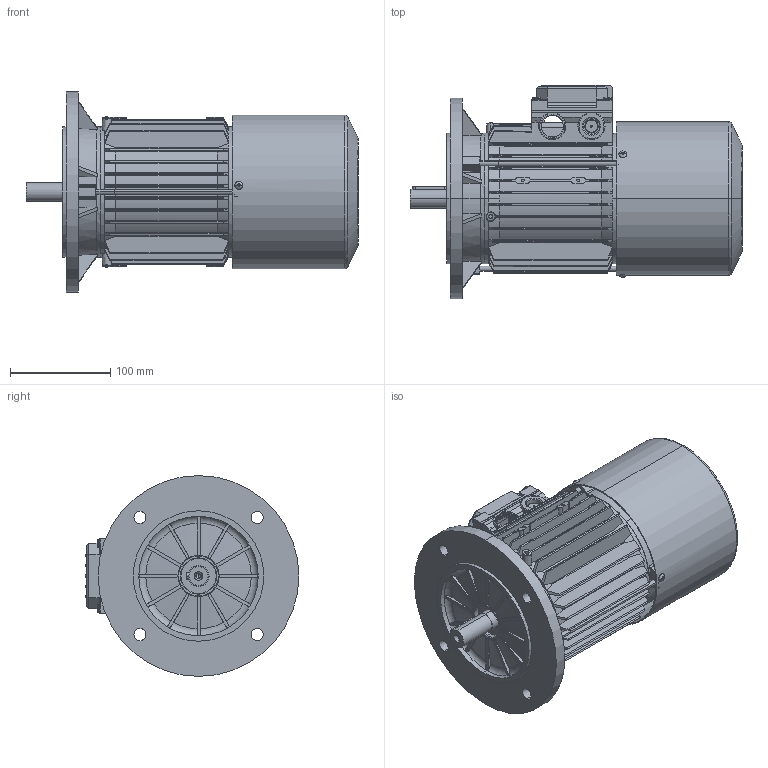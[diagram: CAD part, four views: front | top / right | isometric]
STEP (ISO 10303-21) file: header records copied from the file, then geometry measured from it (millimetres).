
FILE_DESCRIPTION (( 'STEP AP214' ), '1' );
FILE_NAME ('M14DB0011.STEP', '2019-01-31T14:18:26', ( '' ), ( '' ), 'SwSTEP 2.0', 'SolidWorks 2018', '' );
FILE_SCHEMA (( 'AUTOMOTIVE_DESIGN' ));
Length unit declared in the file: millimetre
Products named in the file (13): Coperchio per Scatola Singola 63-71-80 con viti; Guarnizione Scatola Singola 63-71-80; Vite per coperchio morsettiera; Coperchio per Scatola Singola 63-71-80 - DBAN0095; Vite testa rotonda M3; Scudo Lato Freno P1 BM 80 - DCAH0195; Cuffia BM 80 - DCAL0097; Tirante SM 80; Scudo a flangia B5 Fi 200 BA-BM 80; Chiavetta 80; Albero BM 80; Carcassa 80 B5; M14DB0011
Assembly tree (19 placements, depth 3):
  M14DB0011
    Carcassa 80 B5
    Albero BM 80
    Chiavetta 80
    Scudo a flangia B5 Fi 200 BA-BM 80
    Tirante SM 80  x3
    Cuffia BM 80 - DCAL0097
    Scudo Lato Freno P1 BM 80 - DCAH0195
    Vite testa rotonda M3  x3
    Coperchio per Scatola Singola 63-71-80 con viti
      Coperchio per Scatola Singola 63-71-80 - DBAN0095
      Vite per coperchio morsettiera  x4
      Guarnizione Scatola Singola 63-71-80
Bounding box: 330.75 x 213 x 200 mm (x, y, z)
Volume: 951898.3 mm3; surface area: 599492.7 mm2
Topology: 21 solids, 21 shells, 2571 faces, 6992 edges, 4522 vertices
Faces by surface type: plane 1008, cylinder 911, torus 283, cone 239, bspline 124, sphere 6
Entity records: 88157 total; most frequent: CARTESIAN_POINT 30956, ORIENTED_EDGE 12378, DIRECTION 11027, EDGE_CURVE 6189, AXIS2_PLACEMENT_3D 4071, VERTEX_POINT 4040, LINE 2885, VECTOR 2885
